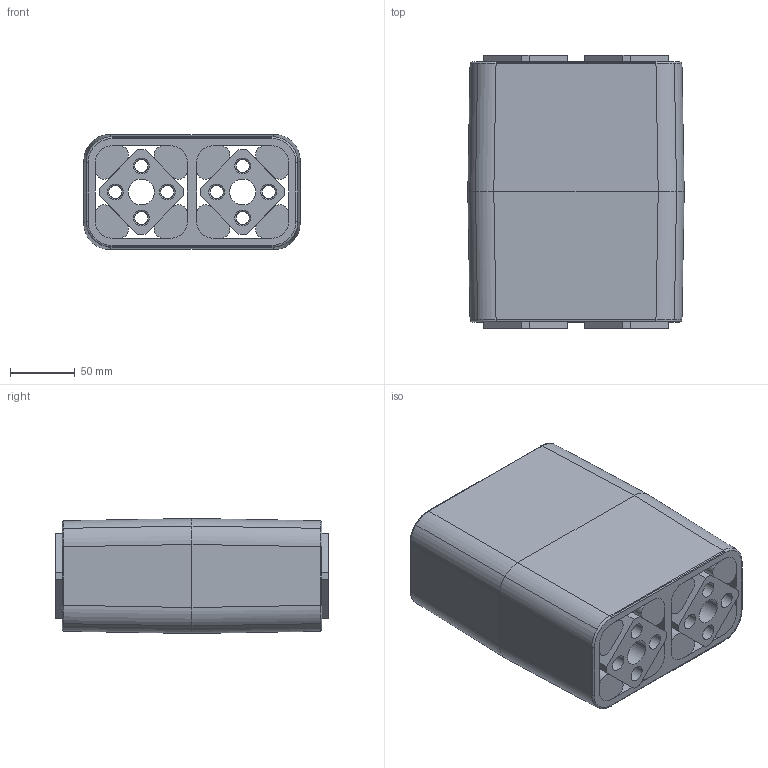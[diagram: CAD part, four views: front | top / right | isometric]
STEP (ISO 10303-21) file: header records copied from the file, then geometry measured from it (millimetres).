
FILE_DESCRIPTION((''),'2;1');
FILE_NAME('\\rostaofc\data\uw\save\daten_f\Normprogramm 3D\Gummifederelemente\DO-A50x200_01041017.stp','2004-09-28T07:43:10',('uw'),(''),'Autodesk Inventor 8','Autodesk Inventor 8','');
FILE_SCHEMA(('AUTOMOTIVE_DESIGN { 1 0 10303 214 1 1 1 1 }'));
Length unit declared in the file: millimetre
Products named in the file (4): ROSTA-Gummifederelement DO-A50x200; Aussengehäuse DO50x200; 4_4_6946-001; 4_4_6946-002
Assembly tree (11 placements, depth 2):
  ROSTA-Gummifederelement DO-A50x200
    Aussengehäuse DO50x200
    4_4_6946-001  x2
    4_4_6946-002  x8
Bounding box: 166.49 x 210 x 88.49 mm (x, y, z)
Volume: 2342371.3 mm3; surface area: 515156.8 mm2
Topology: 11 solids, 11 shells, 554 faces, 1280 edges, 796 vertices
Faces by surface type: plane 278, cylinder 172, bspline 72, cone 32
Entity records: 12801 total; most frequent: CARTESIAN_POINT 2949, DIRECTION 2120, ORIENTED_EDGE 1944, EDGE_CURVE 972, AXIS2_PLACEMENT_3D 759, VERTEX_POINT 612, VECTOR 602, LINE 602
